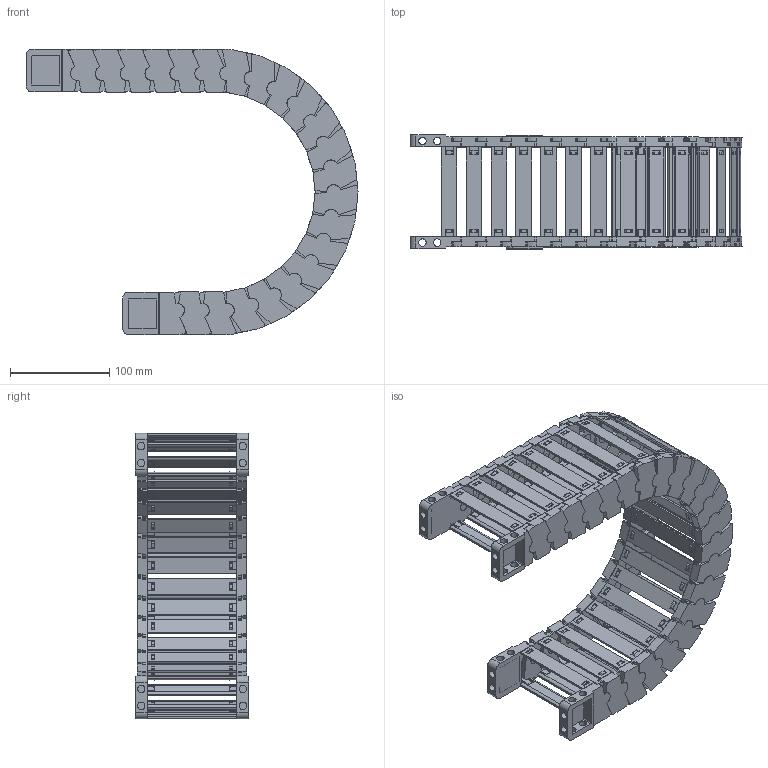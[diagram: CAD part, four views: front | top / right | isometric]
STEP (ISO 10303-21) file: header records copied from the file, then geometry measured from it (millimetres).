
FILE_DESCRIPTION((''),'2;1');
FILE_NAME('JY-35X90-R125_ASM','2022-05-06T19:06:43',('admin'),(''),'CREO PARAMETRIC BY PTC INC, 2021164','CREO PARAMETRIC BY PTC INC, 2021164','');
FILE_SCHEMA(('CONFIG_CONTROL_DESIGN','GEOMETRIC_VALIDATION_PROPERTIES_MIM'));
Length unit declared in the file: millimetre
Products named in the file (11): 35XL-L; 25-35XL-YP; 35XL-R; ASM0001_ASM; 35-LTT-A-L; 35-LTT-A-R; 35XL-LTT-A_ASM; 35-LTT-B-L; 35-LTT-B-R; 35XL-LTT-B_ASM; JY-35X90-R125_ASM
Assembly tree (36 placements, depth 3):
  JY-35X90-R125_ASM
    ASM0001_ASM  x22
      35XL-L
      25-35XL-YP
      35XL-R
    35XL-LTT-A_ASM
      35-LTT-A-L
      25-35XL-YP  x2
      35-LTT-A-R
    35XL-LTT-B_ASM
      35-LTT-B-L
      25-35XL-YP  x2
      35-LTT-B-R
Bounding box: 334.89 x 114.6 x 288.09 mm (x, y, z)
Volume: 717322.4 mm3; surface area: 446203.5 mm2
Topology: 96 solids, 96 shells, 4984 faces, 14582 edges, 9748 vertices
Faces by surface type: plane 3792, cylinder 1188, bspline 4
Entity records: 20898 total; most frequent: CARTESIAN_POINT 3249, ORIENTED_EDGE 2876, DIRECTION 2870, EDGE_CURVE 1438, VECTOR 1056, LINE 1056, VERTEX_POINT 964, AXIS2_PLACEMENT_3D 907
